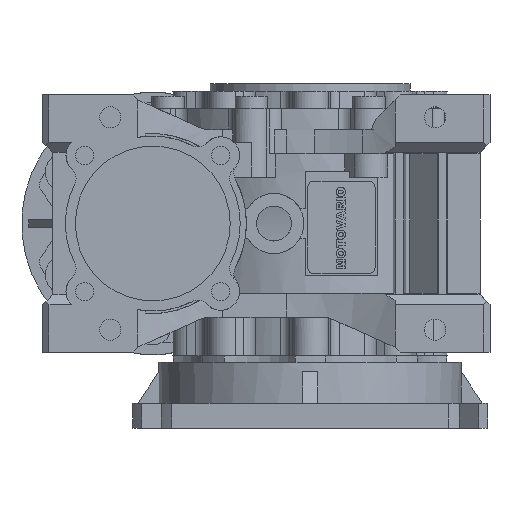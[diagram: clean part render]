
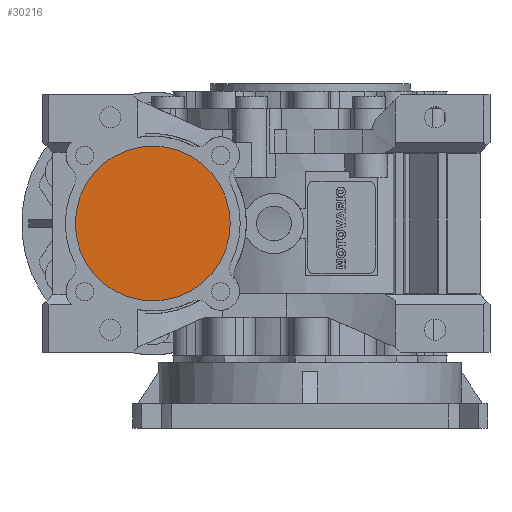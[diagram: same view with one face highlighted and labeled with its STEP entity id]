
A CAD part, left-side view. The second image highlights one B-rep face of the part: STEP entity #30216.
In plain terms, the highlighted planar face has unit normal (-1, 0, 0) as drawn and (0, 0, -1) by its records, which use the part's own axes.
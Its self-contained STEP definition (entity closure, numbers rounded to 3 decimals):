
#691=PLANE('',#32805);
#1940=CIRCLE('',#32804,31.);
#7203=ORIENTED_EDGE('',*,*,#14420,.F.);
#14420=EDGE_CURVE('',#18226,#18226,#1940,.T.);
#18226=VERTEX_POINT('',#49663);
#25541=EDGE_LOOP('',(#7203));
#27593=FACE_BOUND('',#25541,.T.);
#30216=ADVANCED_FACE('',(#27593),#691,.T.);
#32804=AXIS2_PLACEMENT_3D('',#49662,#39155,#39156);
#32805=AXIS2_PLACEMENT_3D('',#49664,#39157,#39158);
#39155=DIRECTION('',(0.,0.,1.));
#39156=DIRECTION('',(1.,0.,0.));
#39157=DIRECTION('',(0.,0.,-1.));
#39158=DIRECTION('',(-1.,0.,0.));
#49662=CARTESIAN_POINT('',(0.,63.,-70.5));
#49663=CARTESIAN_POINT('',(31.,63.,-70.5));
#49664=CARTESIAN_POINT('',(31.,63.,-70.5));
